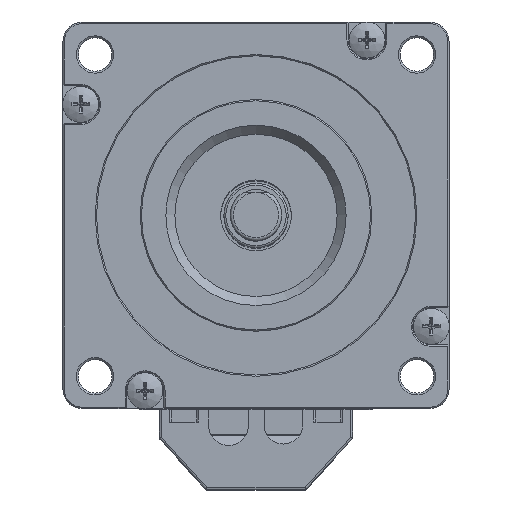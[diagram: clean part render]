
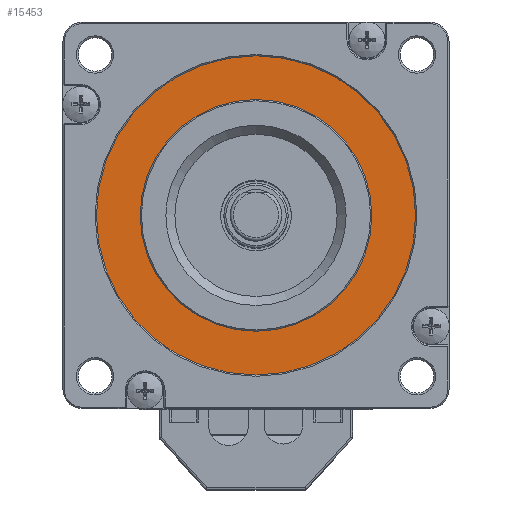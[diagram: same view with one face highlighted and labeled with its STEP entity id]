
A CAD part, top view. The second image highlights one B-rep face of the part: STEP entity #15453.
In plain terms, the highlighted planar face has unit normal (0, 0, 1).
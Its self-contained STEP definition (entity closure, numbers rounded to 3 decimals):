
#156 = VERTEX_POINT ( 'NONE', #18291 ) ;
#790 = CARTESIAN_POINT ( 'NONE',  ( 24.8, 0., 10.8 ) ) ;
#1610 = AXIS2_PLACEMENT_3D ( 'NONE', #18645, #5966, #20544 ) ;
#2270 = PLANE ( 'NONE',  #1610 ) ;
#2790 = CIRCLE ( 'NONE', #20903, 24.8 ) ;
#4368 = VERTEX_POINT ( 'NONE', #790 ) ;
#5966 = DIRECTION ( 'NONE',  ( 0., 0., 1. ) ) ;
#7304 = DIRECTION ( 'NONE',  ( 1., 0., 0. ) ) ;
#8558 = EDGE_LOOP ( 'NONE', ( #15761 ) ) ;
#9109 = CIRCLE ( 'NONE', #10282, 18. ) ;
#9679 = EDGE_LOOP ( 'NONE', ( #14252 ) ) ;
#10264 = DIRECTION ( 'NONE',  ( 0., 0., 1. ) ) ;
#10282 = AXIS2_PLACEMENT_3D ( 'NONE', #19246, #10264, #15689 ) ;
#10864 = EDGE_CURVE ( 'NONE', #156, #156, #9109, .T. ) ;
#11391 = FACE_BOUND ( 'NONE', #8558, .T. ) ;
#12767 = CARTESIAN_POINT ( 'NONE',  ( 0., 0., 10.8 ) ) ;
#14252 = ORIENTED_EDGE ( 'NONE', *, *, #22301, .T. ) ;
#15453 = ADVANCED_FACE ( 'NONE', ( #11391, #17598 ), #2270, .T. ) ;
#15689 = DIRECTION ( 'NONE',  ( 1., 0., 0. ) ) ;
#15761 = ORIENTED_EDGE ( 'NONE', *, *, #10864, .F. ) ;
#17598 = FACE_OUTER_BOUND ( 'NONE', #9679, .T. ) ;
#18291 = CARTESIAN_POINT ( 'NONE',  ( 18., 0., 10.8 ) ) ;
#18645 = CARTESIAN_POINT ( 'NONE',  ( 0., 0., 10.8 ) ) ;
#19246 = CARTESIAN_POINT ( 'NONE',  ( 0., 0., 10.8 ) ) ;
#19952 = DIRECTION ( 'NONE',  ( 0., 0., 1. ) ) ;
#20544 = DIRECTION ( 'NONE',  ( 1., 0., 0. ) ) ;
#20903 = AXIS2_PLACEMENT_3D ( 'NONE', #12767, #19952, #7304 ) ;
#22301 = EDGE_CURVE ( 'NONE', #4368, #4368, #2790, .T. ) ;
